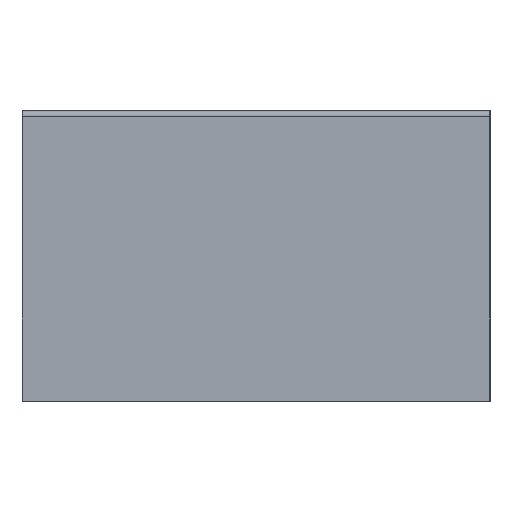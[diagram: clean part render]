
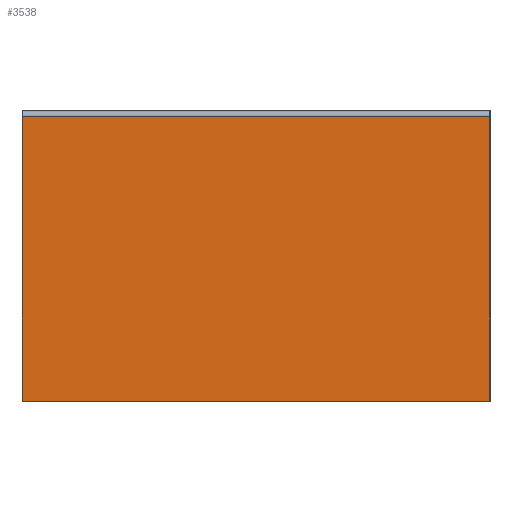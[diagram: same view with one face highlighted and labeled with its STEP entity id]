
A CAD part, left-side view. The second image highlights one B-rep face of the part: STEP entity #3538.
In plain terms, the highlighted planar face has unit normal (-1, 0, 0).
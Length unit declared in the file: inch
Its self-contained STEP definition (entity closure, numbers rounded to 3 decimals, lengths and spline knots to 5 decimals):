
#71 = VERTEX_POINT ( 'NONE', #617 ) ;
#205 = CARTESIAN_POINT ( 'NONE',  ( 0., -1.45, 0. ) ) ;
#419 = DIRECTION ( 'NONE',  ( 0., 0., -1. ) ) ;
#617 = CARTESIAN_POINT ( 'NONE',  ( 0., 0., 0. ) ) ;
#722 = CARTESIAN_POINT ( 'NONE',  ( 0., 0., 0. ) ) ;
#1179 = EDGE_CURVE ( 'NONE', #5566, #71, #1358, .T. ) ;
#1341 = CARTESIAN_POINT ( 'NONE',  ( 0., -1.45004, 0.8825 ) ) ;
#1358 = LINE ( 'NONE', #5973, #5604 ) ;
#1361 = DIRECTION ( 'NONE',  ( 0., 1., 0. ) ) ;
#1516 = VECTOR ( 'NONE', #3592, 39.37008 ) ;
#1581 = VECTOR ( 'NONE', #5339, 39.37008 ) ;
#1952 = ORIENTED_EDGE ( 'NONE', *, *, #5439, .T. ) ;
#2414 = ORIENTED_EDGE ( 'NONE', *, *, #1179, .T. ) ;
#2415 = CARTESIAN_POINT ( 'NONE',  ( 0., -1.45, 0.8825 ) ) ;
#2424 = AXIS2_PLACEMENT_3D ( 'NONE', #2727, #3269, #1361 ) ;
#2649 = LINE ( 'NONE', #1341, #3650 ) ;
#2727 = CARTESIAN_POINT ( 'NONE',  ( 0., 0., 0.1 ) ) ;
#3162 = CARTESIAN_POINT ( 'NONE',  ( 0., -1.45, 0.1 ) ) ;
#3269 = DIRECTION ( 'NONE',  ( 1., 0., 0. ) ) ;
#3538 = ADVANCED_FACE ( 'NONE', ( #5611 ), #4213, .F. ) ;
#3592 = DIRECTION ( 'NONE',  ( 0., 0., -1. ) ) ;
#3650 = VECTOR ( 'NONE', #4503, 39.37008 ) ;
#3669 = VERTEX_POINT ( 'NONE', #205 ) ;
#3810 = EDGE_CURVE ( 'NONE', #71, #3669, #4941, .T. ) ;
#4073 = VERTEX_POINT ( 'NONE', #2415 ) ;
#4213 = PLANE ( 'NONE',  #2424 ) ;
#4503 = DIRECTION ( 'NONE',  ( 0., 1., 0. ) ) ;
#4749 = ORIENTED_EDGE ( 'NONE', *, *, #5416, .F. ) ;
#4875 = EDGE_LOOP ( 'NONE', ( #5610, #4749, #1952, #2414 ) ) ;
#4941 = LINE ( 'NONE', #722, #1581 ) ;
#5130 = CARTESIAN_POINT ( 'NONE',  ( 0., 0., 0.8825 ) ) ;
#5339 = DIRECTION ( 'NONE',  ( 0., -1., 0. ) ) ;
#5416 = EDGE_CURVE ( 'NONE', #4073, #3669, #5507, .T. ) ;
#5439 = EDGE_CURVE ( 'NONE', #4073, #5566, #2649, .T. ) ;
#5507 = LINE ( 'NONE', #3162, #1516 ) ;
#5566 = VERTEX_POINT ( 'NONE', #5130 ) ;
#5604 = VECTOR ( 'NONE', #419, 39.37008 ) ;
#5610 = ORIENTED_EDGE ( 'NONE', *, *, #3810, .T. ) ;
#5611 = FACE_OUTER_BOUND ( 'NONE', #4875, .T. ) ;
#5973 = CARTESIAN_POINT ( 'NONE',  ( 0., 0., 0.1 ) ) ;
